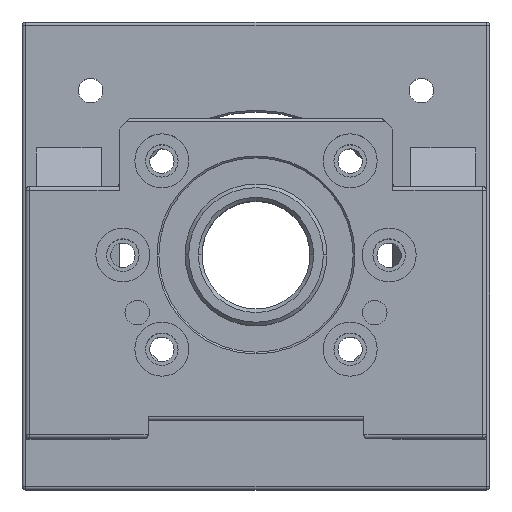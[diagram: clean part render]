
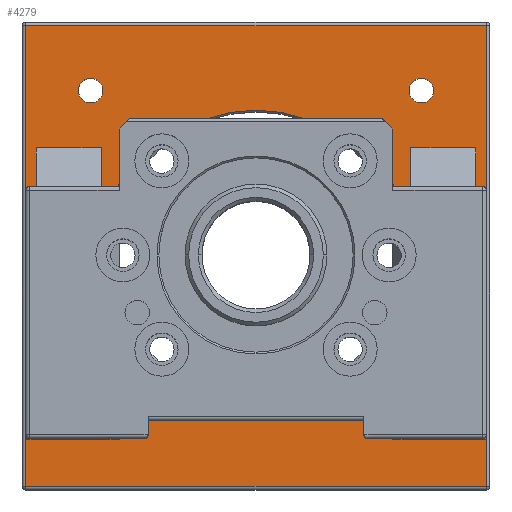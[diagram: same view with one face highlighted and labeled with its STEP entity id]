
A CAD part, top view. The second image highlights one B-rep face of the part: STEP entity #4279.
In plain terms, the highlighted planar face has unit normal (0, 0, 1).
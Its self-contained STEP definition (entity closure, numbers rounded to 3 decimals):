
#989=DIRECTION('',(1.,0.,0.));
#990=VECTOR('',#989,18.);
#991=CARTESIAN_POINT('',(43.,30.,20.));
#992=LINE('',#991,#990);
#997=DIRECTION('',(0.,1.,0.));
#998=VECTOR('',#997,74.293);
#999=CARTESIAN_POINT('',(43.,-44.293,20.));
#1000=LINE('',#999,#998);
#1009=DIRECTION('',(0.,1.,0.));
#1010=VECTOR('',#1009,2.369);
#1011=CARTESIAN_POINT('',(43.,-50.,20.));
#1012=LINE('',#1011,#1010);
#1013=CARTESIAN_POINT('',(-45.962,-45.962,20.));
#1014=DIRECTION('',(0.,0.,1.));
#1015=DIRECTION('',(1.,0.,0.));
#1016=AXIS2_PLACEMENT_3D('',#1013,#1014,#1015);
#1018=DIRECTION('',(1.,0.,0.));
#1019=VECTOR('',#1018,17.);
#1020=CARTESIAN_POINT('',(-61.,-51.,20.));
#1021=LINE('',#1020,#1019);
#1022=CARTESIAN_POINT('',(-44.,-50.,20.));
#1023=DIRECTION('',(0.,0.,1.));
#1024=DIRECTION('',(0.,-1.,0.));
#1025=AXIS2_PLACEMENT_3D('',#1022,#1023,#1024);
#1027=CARTESIAN_POINT('',(-45.962,-45.962,20.));
#1028=DIRECTION('',(0.,0.,1.));
#1029=DIRECTION('',(0.871,-0.491,0.));
#1030=AXIS2_PLACEMENT_3D('',#1027,#1028,#1029);
#1032=CARTESIAN_POINT('',(45.962,-45.962,20.));
#1033=DIRECTION('',(0.,0.,1.));
#1034=DIRECTION('',(-1.,0.,0.));
#1035=AXIS2_PLACEMENT_3D('',#1032,#1033,#1034);
#1037=CARTESIAN_POINT('',(44.,-50.,20.));
#1038=DIRECTION('',(0.,0.,1.));
#1039=DIRECTION('',(-1.,0.,0.));
#1040=AXIS2_PLACEMENT_3D('',#1037,#1038,#1039);
#1042=DIRECTION('',(1.,0.,0.));
#1043=VECTOR('',#1042,16.);
#1044=CARTESIAN_POINT('',(44.,-51.,20.));
#1045=LINE('',#1044,#1043);
#1046=CARTESIAN_POINT('',(60.,-50.,20.));
#1047=DIRECTION('',(0.,0.,1.));
#1048=DIRECTION('',(0.,-1.,0.));
#1049=AXIS2_PLACEMENT_3D('',#1046,#1047,#1048);
#1051=CARTESIAN_POINT('',(45.962,-45.962,20.));
#1052=DIRECTION('',(0.,0.,1.));
#1053=DIRECTION('',(-0.871,0.491,0.));
#1054=AXIS2_PLACEMENT_3D('',#1051,#1052,#1053);
#1056=CARTESIAN_POINT('',(45.962,45.962,20.));
#1057=DIRECTION('',(0.,0.,1.));
#1058=DIRECTION('',(1.,0.,0.));
#1059=AXIS2_PLACEMENT_3D('',#1056,#1057,#1058);
#1061=CARTESIAN_POINT('',(45.962,45.962,20.));
#1062=DIRECTION('',(0.,0.,1.));
#1063=DIRECTION('',(-1.,0.,0.));
#1064=AXIS2_PLACEMENT_3D('',#1061,#1062,#1063);
#1066=CARTESIAN_POINT('',(-45.962,45.962,20.));
#1067=DIRECTION('',(0.,0.,1.));
#1068=DIRECTION('',(1.,0.,0.));
#1069=AXIS2_PLACEMENT_3D('',#1066,#1067,#1068);
#1071=CARTESIAN_POINT('',(-45.962,45.962,20.));
#1072=DIRECTION('',(0.,0.,1.));
#1073=DIRECTION('',(-1.,0.,0.));
#1074=AXIS2_PLACEMENT_3D('',#1071,#1072,#1073);
#1076=CARTESIAN_POINT('',(0.,0.,20.));
#1077=DIRECTION('',(0.,0.,1.));
#1078=DIRECTION('',(-1.,0.,0.));
#1079=AXIS2_PLACEMENT_3D('',#1076,#1077,#1078);
#1081=CARTESIAN_POINT('',(0.,0.,20.));
#1082=DIRECTION('',(0.,0.,1.));
#1083=DIRECTION('',(1.,0.,0.));
#1084=AXIS2_PLACEMENT_3D('',#1081,#1082,#1083);
#1086=DIRECTION('',(0.,-1.,0.));
#1087=VECTOR('',#1086,128.);
#1088=CARTESIAN_POINT('',(-64.,64.,20.));
#1089=LINE('',#1088,#1087);
#1109=DIRECTION('',(-1.,0.,0.));
#1110=VECTOR('',#1109,128.);
#1111=CARTESIAN_POINT('',(64.,64.,20.));
#1112=LINE('',#1111,#1110);
#1287=DIRECTION('',(1.,0.,0.));
#1288=VECTOR('',#1287,128.);
#1289=CARTESIAN_POINT('',(-64.,-64.,20.));
#1290=LINE('',#1289,#1288);
#1333=DIRECTION('',(0.,1.,0.));
#1334=VECTOR('',#1333,128.);
#1335=CARTESIAN_POINT('',(64.,-64.,20.));
#1336=LINE('',#1335,#1334);
#1392=DIRECTION('',(0.,-1.,0.));
#1393=VECTOR('',#1392,2.369);
#1394=CARTESIAN_POINT('',(-43.,-47.631,20.));
#1395=LINE('',#1394,#1393);
#1404=DIRECTION('',(0.,-1.,0.));
#1405=VECTOR('',#1404,74.293);
#1406=CARTESIAN_POINT('',(-43.,30.,20.));
#1407=LINE('',#1406,#1405);
#1438=DIRECTION('',(1.,0.,0.));
#1439=VECTOR('',#1438,18.);
#1440=CARTESIAN_POINT('',(-61.,30.,20.));
#1441=LINE('',#1440,#1439);
#1450=DIRECTION('',(0.,1.,0.));
#1451=VECTOR('',#1450,81.);
#1452=CARTESIAN_POINT('',(-61.,-51.,20.));
#1453=LINE('',#1452,#1451);
#1937=DIRECTION('',(0.,-1.,0.));
#1938=VECTOR('',#1937,80.);
#1939=CARTESIAN_POINT('',(61.,30.,20.));
#1940=LINE('',#1939,#1938);
#2847=CARTESIAN_POINT('',(60.,-51.,20.));
#2848=VERTEX_POINT('',#2847);
#2849=CARTESIAN_POINT('',(44.,-51.,20.));
#2850=VERTEX_POINT('',#2849);
#3022=CARTESIAN_POINT('',(-44.,-51.,20.));
#3023=VERTEX_POINT('',#3022);
#3024=CARTESIAN_POINT('',(-61.,-51.,20.));
#3025=VERTEX_POINT('',#3024);
#3169=CARTESIAN_POINT('',(43.,30.,20.));
#3171=VERTEX_POINT('',#3169);
#3173=CARTESIAN_POINT('',(61.,30.,20.));
#3174=VERTEX_POINT('',#3173);
#3177=CARTESIAN_POINT('',(43.,-44.293,20.));
#3178=VERTEX_POINT('',#3177);
#3183=CARTESIAN_POINT('',(43.,-50.,20.));
#3184=VERTEX_POINT('',#3183);
#3185=CARTESIAN_POINT('',(43.,-47.631,20.));
#3186=VERTEX_POINT('',#3185);
#3188=CARTESIAN_POINT('',(-64.,64.,20.));
#3189=CARTESIAN_POINT('',(-64.,-64.,20.));
#3190=VERTEX_POINT('',#3188);
#3191=VERTEX_POINT('',#3189);
#3192=CARTESIAN_POINT('',(64.,64.,20.));
#3193=VERTEX_POINT('',#3192);
#3194=CARTESIAN_POINT('',(64.,-64.,20.));
#3195=VERTEX_POINT('',#3194);
#3196=CARTESIAN_POINT('',(-42.562,-45.962,20.));
#3197=CARTESIAN_POINT('',(-43.,-44.293,20.));
#3198=VERTEX_POINT('',#3196);
#3199=VERTEX_POINT('',#3197);
#3200=CARTESIAN_POINT('',(-43.,30.,20.));
#3201=VERTEX_POINT('',#3200);
#3202=CARTESIAN_POINT('',(-61.,30.,20.));
#3203=VERTEX_POINT('',#3202);
#3204=CARTESIAN_POINT('',(-43.,-50.,20.));
#3205=VERTEX_POINT('',#3204);
#3206=CARTESIAN_POINT('',(-43.,-47.631,20.));
#3207=VERTEX_POINT('',#3206);
#3208=CARTESIAN_POINT('',(42.562,-45.962,20.));
#3209=VERTEX_POINT('',#3208);
#3210=CARTESIAN_POINT('',(61.,-50.,20.));
#3211=VERTEX_POINT('',#3210);
#3212=CARTESIAN_POINT('',(49.362,45.962,20.));
#3213=CARTESIAN_POINT('',(42.562,45.962,20.));
#3214=VERTEX_POINT('',#3212);
#3215=VERTEX_POINT('',#3213);
#3216=CARTESIAN_POINT('',(-42.562,45.962,20.));
#3217=CARTESIAN_POINT('',(-49.362,45.962,20.));
#3218=VERTEX_POINT('',#3216);
#3219=VERTEX_POINT('',#3217);
#3220=CARTESIAN_POINT('',(-40.5,0.,20.));
#3221=CARTESIAN_POINT('',(40.5,0.,20.));
#3222=VERTEX_POINT('',#3220);
#3223=VERTEX_POINT('',#3221);
#4213=CARTESIAN_POINT('',(0.,0.,20.));
#4214=DIRECTION('',(0.,0.,1.));
#4215=DIRECTION('',(1.,0.,0.));
#4216=AXIS2_PLACEMENT_3D('',#4213,#4214,#4215);
#4217=PLANE('',#4216);
#4219=ORIENTED_EDGE('',*,*,#4218,.F.);
#4221=ORIENTED_EDGE('',*,*,#4220,.F.);
#4223=ORIENTED_EDGE('',*,*,#4222,.F.);
#4225=ORIENTED_EDGE('',*,*,#4224,.F.);
#4226=EDGE_LOOP('',(#4219,#4221,#4223,#4225));
#4227=FACE_OUTER_BOUND('',#4226,.F.);
#4229=ORIENTED_EDGE('',*,*,#4228,.T.);
#4231=ORIENTED_EDGE('',*,*,#4230,.F.);
#4233=ORIENTED_EDGE('',*,*,#4232,.F.);
#4235=ORIENTED_EDGE('',*,*,#4234,.F.);
#4236=ORIENTED_EDGE('',*,*,#3718,.T.);
#4238=ORIENTED_EDGE('',*,*,#4237,.T.);
#4240=ORIENTED_EDGE('',*,*,#4239,.F.);
#4242=ORIENTED_EDGE('',*,*,#4241,.T.);
#4243=EDGE_LOOP('',(#4229,#4231,#4233,#4235,#4236,#4238,#4240,#4242));
#4244=FACE_BOUND('',#4243,.F.);
#4246=ORIENTED_EDGE('',*,*,#4245,.T.);
#4247=ORIENTED_EDGE('',*,*,#4204,.F.);
#4249=ORIENTED_EDGE('',*,*,#4248,.T.);
#4250=ORIENTED_EDGE('',*,*,#3520,.T.);
#4252=ORIENTED_EDGE('',*,*,#4251,.T.);
#4254=ORIENTED_EDGE('',*,*,#4253,.F.);
#4255=ORIENTED_EDGE('',*,*,#4178,.F.);
#4256=ORIENTED_EDGE('',*,*,#4195,.F.);
#4258=ORIENTED_EDGE('',*,*,#4257,.T.);
#4259=EDGE_LOOP('',(#4246,#4247,#4249,#4250,#4252,#4254,#4255,#4256,#4258));
#4260=FACE_BOUND('',#4259,.F.);
#4262=ORIENTED_EDGE('',*,*,#4261,.T.);
#4264=ORIENTED_EDGE('',*,*,#4263,.T.);
#4265=EDGE_LOOP('',(#4262,#4264));
#4266=FACE_BOUND('',#4265,.F.);
#4268=ORIENTED_EDGE('',*,*,#4267,.T.);
#4270=ORIENTED_EDGE('',*,*,#4269,.T.);
#4271=EDGE_LOOP('',(#4268,#4270));
#4272=FACE_BOUND('',#4271,.F.);
#4274=ORIENTED_EDGE('',*,*,#4273,.T.);
#4276=ORIENTED_EDGE('',*,*,#4275,.T.);
#4277=EDGE_LOOP('',(#4274,#4276));
#4278=FACE_BOUND('',#4277,.F.);
#1017=CIRCLE('',#1016,3.4);
#1026=CIRCLE('',#1025,1.);
#1031=CIRCLE('',#1030,3.4);
#1036=CIRCLE('',#1035,3.4);
#1041=CIRCLE('',#1040,1.);
#1050=CIRCLE('',#1049,1.);
#1055=CIRCLE('',#1054,3.4);
#1060=CIRCLE('',#1059,3.4);
#1065=CIRCLE('',#1064,3.4);
#1070=CIRCLE('',#1069,3.4);
#1075=CIRCLE('',#1074,3.4);
#1080=CIRCLE('',#1079,40.5);
#1085=CIRCLE('',#1084,40.5);
#3520=EDGE_CURVE('',#2850,#2848,#1045,.T.);
#3718=EDGE_CURVE('',#3025,#3023,#1021,.T.);
#4178=EDGE_CURVE('',#3171,#3174,#992,.T.);
#4195=EDGE_CURVE('',#3178,#3171,#1000,.T.);
#4204=EDGE_CURVE('',#3184,#3186,#1012,.T.);
#4218=EDGE_CURVE('',#3190,#3191,#1089,.T.);
#4220=EDGE_CURVE('',#3193,#3190,#1112,.T.);
#4222=EDGE_CURVE('',#3195,#3193,#1336,.T.);
#4224=EDGE_CURVE('',#3191,#3195,#1290,.T.);
#4228=EDGE_CURVE('',#3198,#3199,#1017,.T.);
#4230=EDGE_CURVE('',#3201,#3199,#1407,.T.);
#4232=EDGE_CURVE('',#3203,#3201,#1441,.T.);
#4234=EDGE_CURVE('',#3025,#3203,#1453,.T.);
#4237=EDGE_CURVE('',#3023,#3205,#1026,.T.);
#4239=EDGE_CURVE('',#3207,#3205,#1395,.T.);
#4241=EDGE_CURVE('',#3207,#3198,#1031,.T.);
#4245=EDGE_CURVE('',#3209,#3186,#1036,.T.);
#4248=EDGE_CURVE('',#3184,#2850,#1041,.T.);
#4251=EDGE_CURVE('',#2848,#3211,#1050,.T.);
#4253=EDGE_CURVE('',#3174,#3211,#1940,.T.);
#4257=EDGE_CURVE('',#3178,#3209,#1055,.T.);
#4261=EDGE_CURVE('',#3214,#3215,#1060,.T.);
#4263=EDGE_CURVE('',#3215,#3214,#1065,.T.);
#4267=EDGE_CURVE('',#3218,#3219,#1070,.T.);
#4269=EDGE_CURVE('',#3219,#3218,#1075,.T.);
#4273=EDGE_CURVE('',#3222,#3223,#1080,.T.);
#4275=EDGE_CURVE('',#3223,#3222,#1085,.T.);
#4279=ADVANCED_FACE('',(#4227,#4244,#4260,#4266,#4272,#4278),#4217,.T.);
